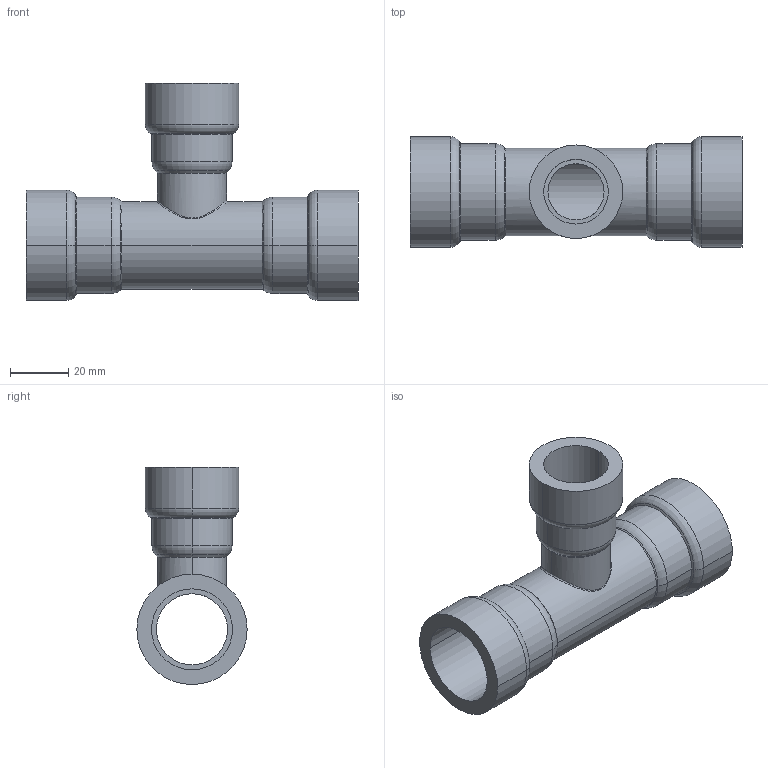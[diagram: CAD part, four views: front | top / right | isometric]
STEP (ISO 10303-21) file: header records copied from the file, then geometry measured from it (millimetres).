
FILE_DESCRIPTION(('Creo Elements/Direct Modeling STEP Export'),'2;1');
FILE_NAME('C9415_3-4_1-2_3-4.stp','2020-07-14T17:04:20',(''),(''),'PTC Creo Elements/Direct Modeling STEP processor for AP214 (Solid Model)','PTC Creo Elements/Direct Modeling 19.0C 15-Aug-2015 (C) Parametric Technology GmbH','');
FILE_SCHEMA(('AUTOMOTIVE_DESIGN { 1 0 10303 214 1 1 1 1 }'));
Length unit declared in the file: millimetre
Products named in the file (1): 9415_3-4_1-2_3-4
Bounding box: 114.03 x 37.9 x 74.53 mm (x, y, z)
Volume: 47642.6 mm3; surface area: 29567.9 mm2
Topology: 1 solids, 1 shells, 60 faces, 138 edges, 84 vertices
Faces by surface type: cylinder 26, torus 12, cone 12, plane 6, bspline 4
Entity records: 5774 total; most frequent: CARTESIAN_POINT 4541, ORIENTED_EDGE 276, DIRECTION 236, EDGE_CURVE 138, AXIS2_PLACEMENT_3D 99, VERTEX_POINT 84, EDGE_LOOP 68, FACE_OUTER_BOUND 60
